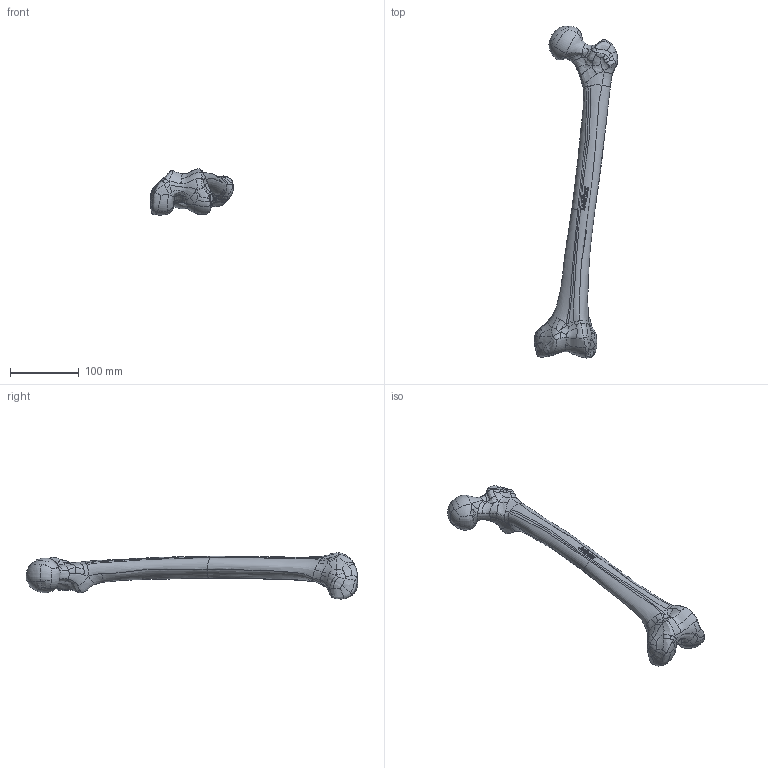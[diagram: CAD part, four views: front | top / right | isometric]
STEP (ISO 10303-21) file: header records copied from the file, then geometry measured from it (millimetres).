
FILE_DESCRIPTION (( 'STEP AP203' ), '1' );
FILE_NAME ('1130-130.STEP', '2025-06-05T13:52:13', ( '' ), ( '' ), 'SwSTEP 2.0', 'SolidWorks 2024', '' );
FILE_SCHEMA (( 'CONFIG_CONTROL_DESIGN' ));
Products named in the file (1): 1130-130
Bounding box: 121.94 x 484.53 x 67.38 mm (x, y, z)
Volume: 657863.4 mm3; surface area: 72940.3 mm2
Topology: 1 solids, 1 shells, 419 faces, 1093 edges, 690 vertices
Faces by surface type: bspline 373, plane 46
Entity records: 105672 total; most frequent: CARTESIAN_POINT 98300, ORIENTED_EDGE 2186, EDGE_CURVE 1093, B_SPLINE_CURVE_WITH_KNOTS 901, VERTEX_POINT 690, EDGE_LOOP 433, ADVANCED_FACE 419, FACE_OUTER_BOUND 419
